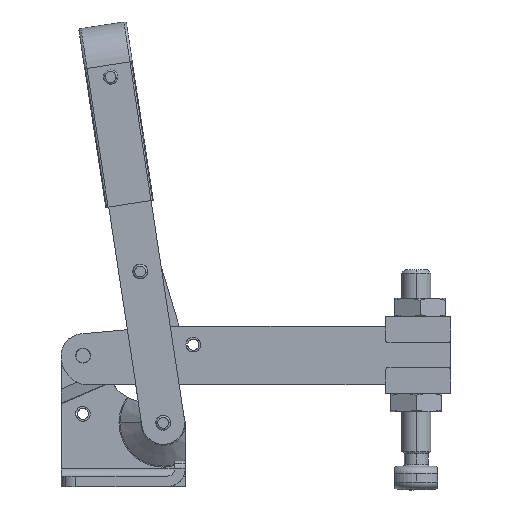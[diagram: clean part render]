
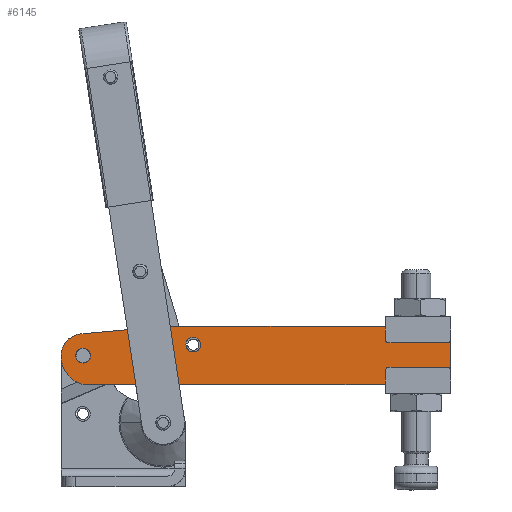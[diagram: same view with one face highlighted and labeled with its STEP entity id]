
A CAD part, top view. The second image highlights one B-rep face of the part: STEP entity #6145.
In plain terms, the highlighted planar face has unit normal (0, 0, 1).
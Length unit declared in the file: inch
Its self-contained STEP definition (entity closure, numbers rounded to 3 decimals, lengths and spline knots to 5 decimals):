
#5606=CARTESIAN_POINT('',(1.05613,0.344,0.0897));
#5607=VERTEX_POINT('',#5606);
#5616=CARTESIAN_POINT('',(1.18213,0.344,0.0897));
#5617=VERTEX_POINT('',#5616);
#5618=CARTESIAN_POINT('',(1.11913,0.344,0.0897));
#5619=DIRECTION('',(0.0,0.0,-1.0));
#5620=DIRECTION('',(-1.0,0.0,0.0));
#5621=AXIS2_PLACEMENT_3D('',#5618,#5619,#5620);
#5622=CIRCLE('',#5621,0.063);
#5623=EDGE_CURVE('',#5617,#5607,#5622,.T.);
#5648=CARTESIAN_POINT('',(0.10913,0.25,0.0897));
#5649=VERTEX_POINT('',#5648);
#5658=CARTESIAN_POINT('',(0.23713,0.25,0.0897));
#5659=VERTEX_POINT('',#5658);
#5660=CARTESIAN_POINT('',(0.17313,0.25,0.0897));
#5661=DIRECTION('',(0.0,0.0,-1.0));
#5662=DIRECTION('',(-1.0,0.0,0.0));
#5663=AXIS2_PLACEMENT_3D('',#5660,#5661,#5662);
#5664=CIRCLE('',#5663,0.064);
#5665=EDGE_CURVE('',#5659,#5649,#5664,.T.);
#5690=CARTESIAN_POINT('',(0.79713,0.312,0.0897));
#5691=VERTEX_POINT('',#5690);
#5700=CARTESIAN_POINT('',(0.92513,0.312,0.0897));
#5701=VERTEX_POINT('',#5700);
#5702=CARTESIAN_POINT('',(0.86113,0.312,0.0897));
#5703=DIRECTION('',(0.0,0.0,-1.0));
#5704=DIRECTION('',(-1.0,0.0,0.0));
#5705=AXIS2_PLACEMENT_3D('',#5702,#5703,#5704);
#5706=CIRCLE('',#5705,0.064);
#5707=EDGE_CURVE('',#5701,#5691,#5706,.T.);
#5741=CARTESIAN_POINT('',(0.86113,0.312,0.0897));
#5742=DIRECTION('',(0.0,0.0,-1.0));
#5743=DIRECTION('',(-1.0,0.0,0.0));
#5744=AXIS2_PLACEMENT_3D('',#5741,#5742,#5743);
#5745=CIRCLE('',#5744,0.064);
#5746=EDGE_CURVE('',#5691,#5701,#5745,.T.);
#5765=CARTESIAN_POINT('',(0.17313,0.25,0.0897));
#5766=DIRECTION('',(0.0,0.0,-1.0));
#5767=DIRECTION('',(-1.0,0.0,0.0));
#5768=AXIS2_PLACEMENT_3D('',#5765,#5766,#5767);
#5769=CIRCLE('',#5768,0.064);
#5770=EDGE_CURVE('',#5649,#5659,#5769,.T.);
#5789=CARTESIAN_POINT('',(1.11913,0.344,0.0897));
#5790=DIRECTION('',(0.0,0.0,-1.0));
#5791=DIRECTION('',(-1.0,0.0,0.0));
#5792=AXIS2_PLACEMENT_3D('',#5789,#5790,#5791);
#5793=CIRCLE('',#5792,0.063);
#5794=EDGE_CURVE('',#5607,#5617,#5793,.T.);
#5804=CARTESIAN_POINT('',(0.17313,0.438,0.0897));
#5805=VERTEX_POINT('',#5804);
#5806=CARTESIAN_POINT('',(0.83873,0.49798,0.0897));
#5807=VERTEX_POINT('',#5806);
#5808=CARTESIAN_POINT('',(0.17313,0.438,0.0897));
#5809=DIRECTION('',(0.996,0.09,0.0));
#5810=VECTOR('',#5809,0.6683);
#5811=LINE('',#5808,#5810);
#5812=EDGE_CURVE('',#5805,#5807,#5811,.T.);
#5844=CARTESIAN_POINT('',(0.88361,0.5,0.0897));
#5845=VERTEX_POINT('',#5844);
#5846=CARTESIAN_POINT('',(0.88361,0.0,0.0897));
#5847=DIRECTION('',(0.0,0.0,-1.0));
#5848=DIRECTION('',(0.0,1.0,0.0));
#5849=AXIS2_PLACEMENT_3D('',#5846,#5847,#5848);
#5850=CIRCLE('',#5849,0.5);
#5851=EDGE_CURVE('',#5807,#5845,#5850,.T.);
#5877=CARTESIAN_POINT('',(3.29813,0.5,0.0897));
#5878=VERTEX_POINT('',#5877);
#5879=CARTESIAN_POINT('',(0.88361,0.5,0.0897));
#5880=DIRECTION('',(1.0,0.0,0.0));
#5881=VECTOR('',#5880,2.41452);
#5882=LINE('',#5879,#5881);
#5883=EDGE_CURVE('',#5845,#5878,#5882,.T.);
#5908=CARTESIAN_POINT('',(3.32913,0.469,0.0897));
#5909=VERTEX_POINT('',#5908);
#5910=CARTESIAN_POINT('',(3.29813,0.469,0.0897));
#5911=DIRECTION('',(0.0,0.0,-1.0));
#5912=DIRECTION('',(1.0,0.0,0.0));
#5913=AXIS2_PLACEMENT_3D('',#5910,#5911,#5912);
#5914=CIRCLE('',#5913,0.031);
#5915=EDGE_CURVE('',#5878,#5909,#5914,.T.);
#5941=CARTESIAN_POINT('',(3.32913,0.031,0.0897));
#5942=VERTEX_POINT('',#5941);
#5943=CARTESIAN_POINT('',(3.32913,0.469,0.0897));
#5944=DIRECTION('',(0.0,-1.0,0.0));
#5945=VECTOR('',#5944,0.438);
#5946=LINE('',#5943,#5945);
#5947=EDGE_CURVE('',#5909,#5942,#5946,.T.);
#5972=CARTESIAN_POINT('',(3.29813,0.,0.0897));
#5973=VERTEX_POINT('',#5972);
#5974=CARTESIAN_POINT('',(3.29813,0.031,0.0897));
#5975=DIRECTION('',(0.0,0.0,-1.0));
#5976=DIRECTION('',(0.0,-1.0,0.0));
#5977=AXIS2_PLACEMENT_3D('',#5974,#5975,#5976);
#5978=CIRCLE('',#5977,0.031);
#5979=EDGE_CURVE('',#5942,#5973,#5978,.T.);
#6005=CARTESIAN_POINT('',(0.18402,0.0,0.0897));
#6006=VERTEX_POINT('',#6005);
#6007=CARTESIAN_POINT('',(3.29813,0.,0.0897));
#6008=DIRECTION('',(-1.0,0.0,0.0));
#6009=VECTOR('',#6008,3.1141);
#6010=LINE('',#6007,#6009);
#6011=EDGE_CURVE('',#5973,#6006,#6010,.T.);
#6036=CARTESIAN_POINT('',(-0.01174,0.2842,0.0897));
#6037=VERTEX_POINT('',#6036);
#6038=CARTESIAN_POINT('',(0.23513,0.24472,0.0897));
#6039=DIRECTION('',(0.0,0.0,-1.0));
#6040=DIRECTION('',(-0.987,0.158,0.0));
#6041=AXIS2_PLACEMENT_3D('',#6038,#6039,#6040);
#6042=CIRCLE('',#6041,0.25);
#6043=EDGE_CURVE('',#6006,#6037,#6042,.T.);
#6069=CARTESIAN_POINT('',(0.17313,0.25,0.0897));
#6070=DIRECTION('',(0.0,0.0,-1.0));
#6071=DIRECTION('',(0.0,1.0,0.0));
#6072=AXIS2_PLACEMENT_3D('',#6069,#6070,#6071);
#6073=CIRCLE('',#6072,0.188);
#6074=EDGE_CURVE('',#6037,#5805,#6073,.T.);
#6117=CARTESIAN_POINT('',(1.70704,0.24542,0.0897));
#6118=DIRECTION('',(0.0,0.0,1.0));
#6119=DIRECTION('',(1.0,0.0,0.0));
#6120=AXIS2_PLACEMENT_3D('',#6117,#6118,#6119);
#6121=PLANE('',#6120);
#6122=ORIENTED_EDGE('',*,*,#5812,.F.);
#6123=ORIENTED_EDGE('',*,*,#6074,.F.);
#6124=ORIENTED_EDGE('',*,*,#6043,.F.);
#6125=ORIENTED_EDGE('',*,*,#6011,.F.);
#6126=ORIENTED_EDGE('',*,*,#5979,.F.);
#6127=ORIENTED_EDGE('',*,*,#5947,.F.);
#6128=ORIENTED_EDGE('',*,*,#5915,.F.);
#6129=ORIENTED_EDGE('',*,*,#5883,.F.);
#6130=ORIENTED_EDGE('',*,*,#5851,.F.);
#6131=EDGE_LOOP('',(#6122,#6123,#6124,#6125,#6126,#6127,#6128,#6129,#6130));
#6132=FACE_OUTER_BOUND('',#6131,.T.);
#6133=ORIENTED_EDGE('',*,*,#5707,.T.);
#6134=ORIENTED_EDGE('',*,*,#5746,.T.);
#6135=EDGE_LOOP('',(#6133,#6134));
#6136=FACE_BOUND('',#6135,.T.);
#6137=ORIENTED_EDGE('',*,*,#5665,.T.);
#6138=ORIENTED_EDGE('',*,*,#5770,.T.);
#6139=EDGE_LOOP('',(#6137,#6138));
#6140=FACE_BOUND('',#6139,.T.);
#6141=ORIENTED_EDGE('',*,*,#5623,.T.);
#6142=ORIENTED_EDGE('',*,*,#5794,.T.);
#6143=EDGE_LOOP('',(#6141,#6142));
#6144=FACE_BOUND('',#6143,.T.);
#6145=ADVANCED_FACE('',(#6132,#6136,#6140,#6144),#6121,.T.);
